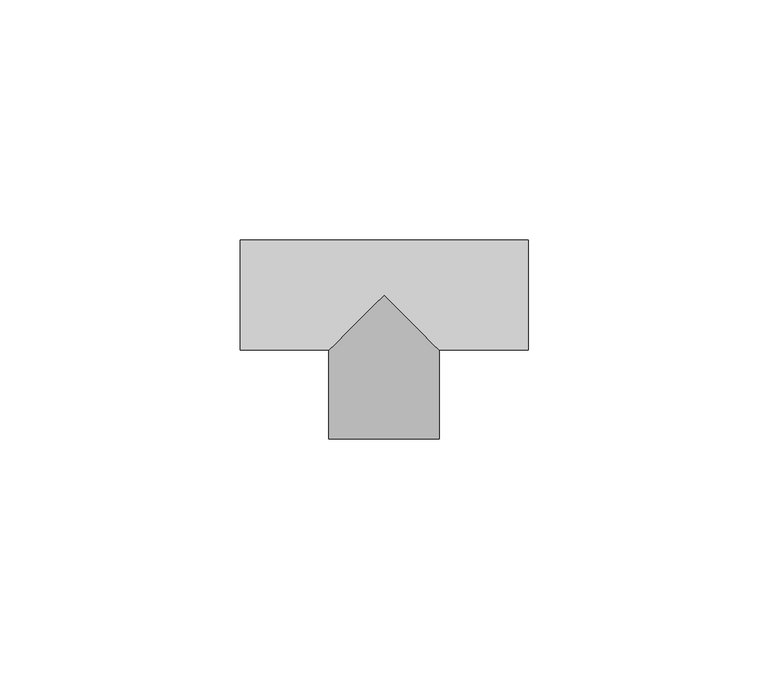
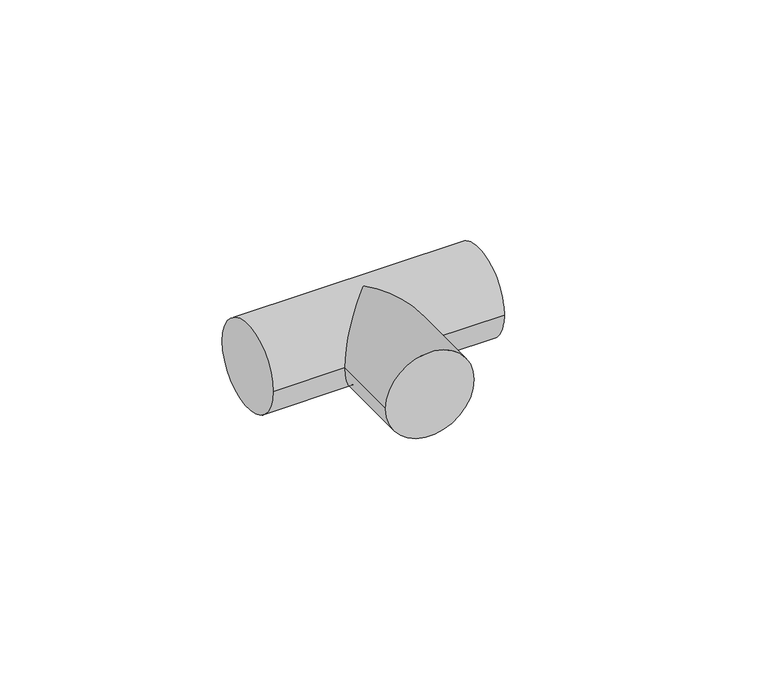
"""IFC4 building model written with IfcOpenShell, lengths in millimetres: cable carrier fitting geometry, ADSK_Тройник : ПВХ."""

import ifcopenshell
import ifcopenshell.guid

model = None  # the IFC model being written
_history = None  # IfcOwnerHistory: only IFC2X3 demands one
_inside = {}  # id of a spatial element -> (the spatial element, [elements in it])
_under = {}  # id of a project, library or spatial element -> (it, [spatial elements below it])
_declared = {}  # id of a project -> (the project, [libraries it declares])
_typed = {}  # id of a type object -> (the type object, [elements of that type])
_made_of = {}  # id of a material, layer set ... -> (it, [elements and type objects made of it])


def new_model(schema):
    """Start an empty IFC model of exactly this schema.

    Asked for "IFC4X3", IfcOpenShell would pick the latest addendum, in which some entities
    have other attributes; the version numbers below select the first issue.
    IFC2X3 requires an IfcOwnerHistory on every rooted entity: one is made here for all.
    """
    global model, _history
    if schema == "IFC4X3":
        model = ifcopenshell.file(schema_version=(4, 3, 0, 0))
    else:
        model = ifcopenshell.file(schema=schema)
    _inside.clear()
    _under.clear()
    _declared.clear()
    _typed.clear()
    _made_of.clear()
    _history = None
    if model.schema == "IFC2X3":
        org = make("IfcOrganization", Name="unknown")
        user = make(
            "IfcPersonAndOrganization",
            ThePerson=make("IfcPerson", FamilyName="unknown"),
            TheOrganization=org,
        )
        app = make(
            "IfcApplication",
            ApplicationDeveloper=org,
            Version="unknown",
            ApplicationFullName="unknown",
            ApplicationIdentifier="unknown",
        )
        _history = make(
            "IfcOwnerHistory",
            OwningUser=user,
            OwningApplication=app,
            ChangeAction="ADDED",
            CreationDate=0,
        )
    return model


def make(cls, **values):
    """One entity of the class cls with the attributes given. An attribute that is None is left unset."""
    return model.create_entity(
        cls, **{name: value for name, value in values.items() if value is not None}
    )


def rooted(cls, **values):
    """An entity with a GlobalId (a new one), such as an element, a storey or a relation."""
    return make(cls, GlobalId=ifcopenshell.guid.new(), OwnerHistory=_history, **values)


def si_unit(unit_type, name, prefix=None):
    """IfcSIUnit, for example si_unit("LENGTHUNIT", "METRE", prefix="MILLI")."""
    return make("IfcSIUnit", UnitType=unit_type, Prefix=prefix, Name=name)


def assignment(units):
    """IfcUnitAssignment: the units of a project."""
    return None if units is None else make("IfcUnitAssignment", Units=units)


def point(xyz):
    """IfcCartesianPoint."""
    return None if xyz is None else make("IfcCartesianPoint", Coordinates=xyz)


def direction(xyz):
    """IfcDirection."""
    return None if xyz is None else make("IfcDirection", DirectionRatios=xyz)


def frame(location, z_axis=None, x_axis=None):
    """IfcAxis2Placement3D, a coordinate frame: its origin and axes. An axis left out is left unset."""
    return make(
        "IfcAxis2Placement3D",
        Location=point(location),
        Axis=direction(z_axis),
        RefDirection=direction(x_axis),
    )


def origin():
    """The frame at (0, 0, 0) with its axes left unset."""
    return frame((0.0, 0.0, 0.0))


def place(relative_to, where):
    """IfcLocalPlacement: puts the frame where relative to a parent placement (None: the world)."""
    return make(
        "IfcLocalPlacement", PlacementRelTo=relative_to, RelativePlacement=where
    )


def context(
    kind, dimensions, precision=None, world=None, true_north=None, identifier=None
):
    """IfcGeometricRepresentationContext, for example the 3D "Model" context."""
    return make(
        "IfcGeometricRepresentationContext",
        ContextIdentifier=identifier,
        ContextType=kind,
        CoordinateSpaceDimension=dimensions,
        Precision=precision,
        WorldCoordinateSystem=world,
        TrueNorth=true_north,
    )


def project(units=None, contexts=None):
    """IfcProject with its units and contexts."""
    return rooted(
        "IfcProject",
        Name="project",
        RepresentationContexts=contexts,
        UnitsInContext=assignment(units),
    )


def spatial(cls, under=None, at=None, **own):
    """A site, building, storey or space (cls), placed at a placement, below another one or the project."""
    s = rooted(cls, ObjectPlacement=at, **own)
    if under is not None:
        _under.setdefault(under.id(), (under, []))[1].append(s)
    return s


def circle_curve(where, radius):
    """IfcCircle in the frame where."""
    return make("IfcCircle", Position=where, Radius=radius)


def ellipse_curve(where, semi_axis1, semi_axis2):
    """IfcEllipse in the frame where."""
    return make(
        "IfcEllipse", Position=where, SemiAxis1=semi_axis1, SemiAxis2=semi_axis2
    )


def shape(context_of_items, identifier, shape_type, items):
    """IfcShapeRepresentation: the items that make up one representation, for example the "Body"."""
    return make(
        "IfcShapeRepresentation",
        ContextOfItems=context_of_items,
        RepresentationIdentifier=identifier,
        RepresentationType=shape_type,
        Items=items,
    )


def source(mapping_origin, context_of_items, identifier, shape_type, items):
    """IfcRepresentationMap: a shape defined once, which mapped items show again and again."""
    return make(
        "IfcRepresentationMap",
        MappingOrigin=mapping_origin,
        MappedRepresentation=shape(context_of_items, identifier, shape_type, items),
    )


def transform(
    local_origin,
    x_axis=None,
    y_axis=None,
    z_axis=None,
    scale=None,
    scale2=None,
    scale3=None,
    uniform=True,
):
    """IfcCartesianTransformationOperator3D, or its non-uniform kind. x_axis, y_axis, z_axis: its Axis1, 2, 3."""
    if uniform:
        return make(
            "IfcCartesianTransformationOperator3D",
            Axis1=direction(x_axis),
            Axis2=direction(y_axis),
            LocalOrigin=point(local_origin),
            Scale=scale,
            Axis3=direction(z_axis),
        )
    return make(
        "IfcCartesianTransformationOperator3DnonUniform",
        Axis1=direction(x_axis),
        Axis2=direction(y_axis),
        LocalOrigin=point(local_origin),
        Scale=scale,
        Axis3=direction(z_axis),
        Scale2=scale2,
        Scale3=scale3,
    )


def mapped(mapping_source, mapping_target):
    """IfcMappedItem: shows the shape of a source again, moved by a transform."""
    return make(
        "IfcMappedItem", MappingSource=mapping_source, MappingTarget=mapping_target
    )


def made_of(thing, what):
    """Note that an element or type object is made of a material, layer set ...; save() writes the relation."""
    if what is not None:
        _made_of.setdefault(what.id(), (what, []))[1].append(thing)
    return thing


def element(
    cls,
    number,
    at=None,
    inside=None,
    cuts=None,
    type_object=None,
    material=None,
    context=None,
    identifier="Body",
    shape_type=None,
    held_by="IfcProductDefinitionShape",
    body=None,
    shapes=None,
    **own,
):
    """One element of the class cls, such as IfcWall. Its Tag is "e" and its number.

    at: its placement. inside: the storey or other place that contains it. cuts: it is an
    opening in that element (IfcRelVoidsElement). A single representation is given by context,
    identifier, shape_type and body (its items); several are given by shapes. held_by: the class
    of the entity that holds the representations. save() writes the other relations.
    """
    e = rooted(cls, Tag="e%d" % number, ObjectPlacement=at, **own)
    if body is not None:
        shapes = [shape(context, identifier, shape_type, body)]
    if shapes is not None:
        e.Representation = make(held_by, Representations=shapes)
    if inside is not None:
        _inside.setdefault(inside.id(), (inside, []))[1].append(e)
    if cuts is not None:
        rooted(
            "IfcRelVoidsElement", RelatingBuildingElement=cuts, RelatedOpeningElement=e
        )
    if type_object is not None:
        _typed.setdefault(type_object.id(), (type_object, []))[1].append(e)
    return made_of(e, material)


def aggregate(whole, parts):
    """IfcRelAggregates: a whole, such as a stair, and the parts it consists of."""
    return rooted("IfcRelAggregates", RelatingObject=whole, RelatedObjects=parts)


def save(model, path):
    """Write the relations noted so far, then the file.

    IfcRelAggregates (storeys below a building ...), IfcRelContainedInSpatialStructure (elements
    in a storey), IfcRelDefinesByType, IfcRelAssociatesMaterial and IfcRelDeclares: one each for
    every whole, place, type object, material and project.
    """
    for whole, parts in _under.values():
        aggregate(whole, parts)
    for where, things in _inside.values():
        rooted(
            "IfcRelContainedInSpatialStructure",
            RelatedElements=things,
            RelatingStructure=where,
        )
    for kind, things in _typed.values():
        rooted("IfcRelDefinesByType", RelatedObjects=things, RelatingType=kind)
    for what, things in _made_of.values():
        rooted("IfcRelAssociatesMaterial", RelatedObjects=things, RelatingMaterial=what)
    for by, libraries in _declared.values():
        rooted("IfcRelDeclares", RelatingContext=by, RelatedDefinitions=libraries)
    model.write(path)


def plane_surface(at):
    """IfcPlane: the flat surface through the origin of the frame at, square to its z axis."""
    return make("IfcPlane", Position=at)


def cylinder_surface(at, radius):
    """IfcCylindricalSurface: all points at the distance radius from the z axis of the frame at."""
    return make("IfcCylindricalSurface", Position=at, Radius=radius)


def advanced_brep(points, edges, surfaces, faces):
    """IfcAdvancedBrep: a solid bounded by faces that lie on surfaces and meet in shared edges.

    An edge is (start, end): straight between two places in points (the first is 0);
    or (start, end, curve); or (start, end, curve, False) where it runs against its curve.
    A face is (place in surfaces, loops), or (place, loops, False) where it looks against
    its surface's normal. A loop lists edges by number (the first is 1), with a minus sign
    where the edge is run from its end to its start. The first loop is the outer one.
    """
    corners = [point(p) for p in points]
    vertices = [make("IfcVertexPoint", VertexGeometry=c) for c in corners]
    made = []
    for start, end, *more in edges:
        made.append(
            make(
                "IfcEdgeCurve",
                EdgeStart=vertices[start],
                EdgeEnd=vertices[end],
                EdgeGeometry=more[0] if more else make("IfcPolyline", Points=[corners[start], corners[end]]),
                SameSense=more[1] if len(more) > 1 else True,
            )
        )
    hull = []
    for where, loops, *sense in faces:
        bounds = []
        for j, loop in enumerate(loops):
            ring = [make("IfcOrientedEdge", EdgeElement=made[abs(k) - 1], Orientation=k > 0) for k in loop]
            bounds.append(
                make(
                    "IfcFaceOuterBound" if j == 0 else "IfcFaceBound",
                    Bound=make("IfcEdgeLoop", EdgeList=ring),
                    Orientation=True,
                )
            )
        hull.append(make("IfcAdvancedFace", Bounds=bounds, FaceSurface=surfaces[where], SameSense=sense[0] if sense else True))
    return make("IfcAdvancedBrep", Outer=make("IfcClosedShell", CfsFaces=hull))


def cable_carrier_fitting_8fd13dfc(model_context):
    return source(origin(), model_context, "Body", "AdvancedBrep", [
        advanced_brep(
        [(30.0, -11.5, 0.0), (30.0, 11.5, 0.0), (-30.0, -11.5, 0.0), (-30.0, 11.5, 0.0), (11.5, -11.5, 0.0), (0.0, 0.0, -11.5), (-11.5, -11.5, 0.0), (0.0, 0.0, 11.5), (11.5, -30.0, 0.0), (-11.5, -30.0, 0.0)],
        [
            (0, 1, circle_curve(frame((30.0, 0.0, 0.0), z_axis=(1.0, 0.0, 0.0), x_axis=(0.0, 1.0, 0.0)), 11.5)),
            (1, 0, circle_curve(frame((30.0, 0.0, 0.0), z_axis=(1.0, 0.0, 0.0), x_axis=(0.0, 1.0, 0.0)), 11.5)),
            (2, 3, circle_curve(frame((-30.0, 0.0, 0.0), z_axis=(-1.0, 0.0, 0.0), x_axis=(0.0, 1.0, 0.0)), 11.5)),
            (3, 2, circle_curve(frame((-30.0, 0.0, 0.0), z_axis=(-1.0, 0.0, 0.0), x_axis=(0.0, 1.0, 0.0)), 11.5)),
            (0, 4),
            (4, 5, ellipse_curve(frame((0.0, 0.0, 0.0), z_axis=(0.7071067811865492, 0.7071067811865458, 0.0), x_axis=(0.7071067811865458, -0.7071067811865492, 0.0)), 16.263456, 11.5)),
            (5, 6, ellipse_curve(frame((0.0, 0.0, 0.0), z_axis=(-0.7071067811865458, 0.7071067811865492, 0.0), x_axis=(0.7071067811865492, 0.7071067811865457, 0.0)), 16.263456, 11.5)),
            (6, 2),
            (3, 1),
            (6, 7, ellipse_curve(frame((0.0, 0.0, 0.0), z_axis=(-0.7071067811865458, 0.7071067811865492, 0.0), x_axis=(0.7071067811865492, 0.7071067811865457, 0.0)), 16.263456, 11.5)),
            (7, 4, ellipse_curve(frame((0.0, 0.0, 0.0), z_axis=(0.7071067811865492, 0.7071067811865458, 0.0), x_axis=(0.7071067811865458, -0.7071067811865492, 0.0)), 16.263456, 11.5)),
            (8, 9, circle_curve(frame((0.0, -30.0, 0.0), z_axis=(0.0, -1.0, 0.0), x_axis=(-1.0, 0.0, 0.0)), 11.5)),
            (9, 8, circle_curve(frame((0.0, -30.0, 0.0), z_axis=(0.0, -1.0, 0.0), x_axis=(-1.0, 0.0, 0.0)), 11.5)),
            (9, 6),
            (4, 8),
        ],
        [
            plane_surface(frame((30.0, 11.5, 0.0), z_axis=(1.0, 0.0, 0.0), x_axis=(0.0, 0.0, 1.0))),
            plane_surface(frame((-30.0, 11.5, 0.0), z_axis=(-1.0, 0.0, 0.0), x_axis=(0.0, 0.0, -1.0))),
            cylinder_surface(frame((-30.0, 0.0, 0.0), z_axis=(1.0, 0.0, 0.0), x_axis=(0.0, 1.0, 0.0)), 11.5),
            plane_surface(frame((-11.5, -30.0, 0.0), z_axis=(0.0, -1.0, 0.0), x_axis=(0.0, 0.0, -1.0))),
            cylinder_surface(frame((0.0, -30.0, 0.0), z_axis=(0.0, 1.0, 0.0), x_axis=(-1.0, 0.0, 0.0)), 11.5),
        ],
        [
            (0, [[1, 2]]),
            (1, [[3, 4]]),
            (2, [[-1, 5, 6, 7, 8, -4, 9]]),
            (2, [[-2, -9, -3, -8, 10, 11, -5]]),
            (3, [[12, 13]]),
            (4, [[-13, 14, -7, -6, 15]]),
            (4, [[-12, -15, -11, -10, -14]]),
        ],
    ),
    ])


if __name__ == "__main__":
    model = new_model("IFC4")
    model_context = context("Model", 3, world=origin())
    ifc_project = project(units=[si_unit("LENGTHUNIT", "METRE", prefix="MILLI")], contexts=[model_context])
    site = spatial("IfcSite", under=ifc_project)
    building = spatial("IfcBuilding", under=site)
    placement = place(None, origin())
    cable_carrier_fitting_shape = cable_carrier_fitting_8fd13dfc(model_context)
    element("IfcCableCarrierFitting", 1, ObjectType="ADSK_Тройник : ПВХ", at=placement, inside=building, context=model_context, shape_type="MappedRepresentation", body=[
        mapped(cable_carrier_fitting_shape, transform((0.0, 0.0, 0.0), x_axis=(1.0, 0.0, 0.0), y_axis=(0.0, 1.0, 0.0), z_axis=(0.0, 0.0, 1.0))),
    ])
    save(model, "model.ifc")
